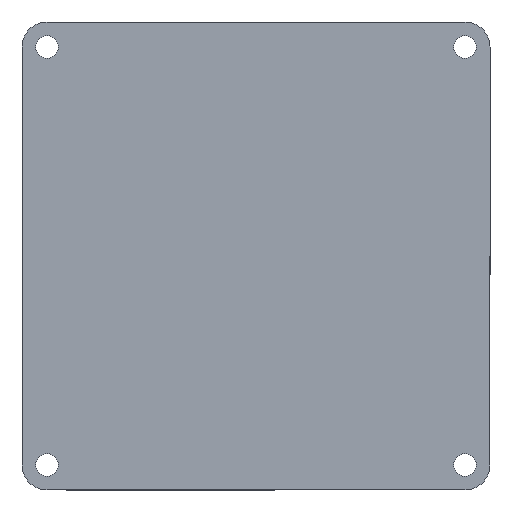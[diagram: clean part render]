
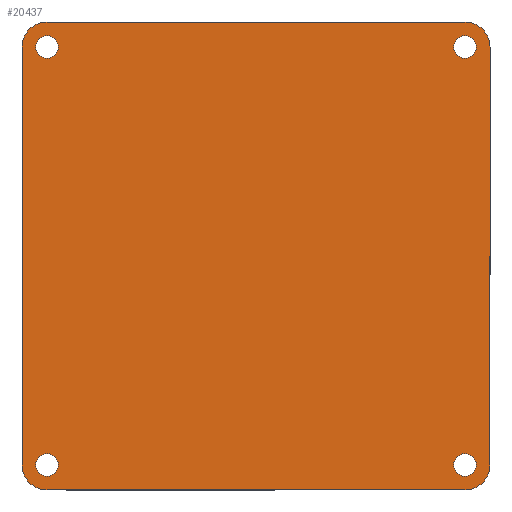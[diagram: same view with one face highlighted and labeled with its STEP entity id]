
A CAD part, front view. The second image highlights one B-rep face of the part: STEP entity #20437.
In plain terms, the highlighted planar face has unit normal (0, -1, 0).
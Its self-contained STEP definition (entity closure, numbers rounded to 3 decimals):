
#219 = CARTESIAN_POINT ( 'NONE',  ( -35., 0., -31.25 ) ) ;
#227 = DIRECTION ( 'NONE',  ( 0., 0., 1. ) ) ;
#463 = CARTESIAN_POINT ( 'NONE',  ( -31.25, 0., 31.25 ) ) ;
#664 = ORIENTED_EDGE ( 'NONE', *, *, #13241, .T. ) ;
#1023 = EDGE_CURVE ( 'NONE', #22109, #22109, #20953, .T. ) ;
#1061 = CIRCLE ( 'NONE', #20741, 1.7 ) ;
#1661 = PLANE ( 'NONE',  #5670 ) ;
#1959 = DIRECTION ( 'NONE',  ( 0., -1., 0. ) ) ;
#2437 = CARTESIAN_POINT ( 'NONE',  ( -31.25, 0., -31.25 ) ) ;
#2697 = FACE_BOUND ( 'NONE', #16604, .T. ) ;
#2740 = FACE_BOUND ( 'NONE', #9182, .T. ) ;
#2944 = CIRCLE ( 'NONE', #20481, 1.7 ) ;
#3190 = VECTOR ( 'NONE', #4754, 1000. ) ;
#3239 = DIRECTION ( 'NONE',  ( 0., 0., 1. ) ) ;
#3329 = CARTESIAN_POINT ( 'NONE',  ( -31.25, 0., -29.55 ) ) ;
#3375 = EDGE_CURVE ( 'NONE', #3922, #10347, #20185, .T. ) ;
#3419 = DIRECTION ( 'NONE',  ( 0., -1., 0. ) ) ;
#3485 = ORIENTED_EDGE ( 'NONE', *, *, #4124, .T. ) ;
#3922 = VERTEX_POINT ( 'NONE', #13198 ) ;
#4124 = EDGE_CURVE ( 'NONE', #15135, #10587, #11899, .T. ) ;
#4342 = LINE ( 'NONE', #9231, #16850 ) ;
#4479 = CARTESIAN_POINT ( 'NONE',  ( 35., 0., 31.25 ) ) ;
#4643 = AXIS2_PLACEMENT_3D ( 'NONE', #2437, #14881, #5417 ) ;
#4754 = DIRECTION ( 'NONE',  ( 0., 0., -1. ) ) ;
#4919 = DIRECTION ( 'NONE',  ( 0., -1., 0. ) ) ;
#4939 = CARTESIAN_POINT ( 'NONE',  ( 31.25, 0., -29.55 ) ) ;
#5105 = DIRECTION ( 'NONE',  ( 0., -1., 0. ) ) ;
#5215 = EDGE_CURVE ( 'NONE', #12855, #12855, #6784, .T. ) ;
#5325 = EDGE_LOOP ( 'NONE', ( #22223 ) ) ;
#5412 = CARTESIAN_POINT ( 'NONE',  ( 35., 0., -31.25 ) ) ;
#5417 = DIRECTION ( 'NONE',  ( 0., 0., 1. ) ) ;
#5513 = EDGE_LOOP ( 'NONE', ( #12532 ) ) ;
#5635 = CIRCLE ( 'NONE', #4643, 3.75 ) ;
#5670 = AXIS2_PLACEMENT_3D ( 'NONE', #20363, #21965, #7013 ) ;
#6146 = VECTOR ( 'NONE', #11297, 1000. ) ;
#6784 = CIRCLE ( 'NONE', #11340, 1.7 ) ;
#6877 = DIRECTION ( 'NONE',  ( 0., 0., 1. ) ) ;
#7013 = DIRECTION ( 'NONE',  ( 0., 0., 1. ) ) ;
#7106 = DIRECTION ( 'NONE',  ( 0., 0., 1. ) ) ;
#7221 = ORIENTED_EDGE ( 'NONE', *, *, #22051, .F. ) ;
#7452 = AXIS2_PLACEMENT_3D ( 'NONE', #17288, #4919, #6877 ) ;
#7488 = ORIENTED_EDGE ( 'NONE', *, *, #12797, .T. ) ;
#7531 = ORIENTED_EDGE ( 'NONE', *, *, #18236, .F. ) ;
#7572 = CARTESIAN_POINT ( 'NONE',  ( -35., 0., -35. ) ) ;
#7726 = DIRECTION ( 'NONE',  ( 0., -1., 0. ) ) ;
#7753 = DIRECTION ( 'NONE',  ( -1., 0., 0. ) ) ;
#8089 = CARTESIAN_POINT ( 'NONE',  ( -31.25, 0., 32.95 ) ) ;
#8134 = VERTEX_POINT ( 'NONE', #20304 ) ;
#8249 = CARTESIAN_POINT ( 'NONE',  ( 31.25, 0., 32.95 ) ) ;
#8530 = CARTESIAN_POINT ( 'NONE',  ( -31.25, 0., -31.25 ) ) ;
#8890 = CARTESIAN_POINT ( 'NONE',  ( -31.25, 0., -35. ) ) ;
#9182 = EDGE_LOOP ( 'NONE', ( #21942 ) ) ;
#9231 = CARTESIAN_POINT ( 'NONE',  ( -35., 0., 35. ) ) ;
#9347 = CIRCLE ( 'NONE', #19830, 3.75 ) ;
#9797 = VERTEX_POINT ( 'NONE', #8089 ) ;
#9818 = FACE_OUTER_BOUND ( 'NONE', #17402, .T. ) ;
#10117 = VECTOR ( 'NONE', #7753, 1000. ) ;
#10178 = EDGE_CURVE ( 'NONE', #12738, #17940, #22677, .T. ) ;
#10192 = CARTESIAN_POINT ( 'NONE',  ( -31.25, 0., 31.25 ) ) ;
#10262 = LINE ( 'NONE', #13541, #3190 ) ;
#10347 = VERTEX_POINT ( 'NONE', #5412 ) ;
#10587 = VERTEX_POINT ( 'NONE', #19621 ) ;
#11297 = DIRECTION ( 'NONE',  ( 0., 0., 1. ) ) ;
#11340 = AXIS2_PLACEMENT_3D ( 'NONE', #13732, #13572, #13695 ) ;
#11344 = VERTEX_POINT ( 'NONE', #8249 ) ;
#11409 = AXIS2_PLACEMENT_3D ( 'NONE', #8530, #17300, #15498 ) ;
#11899 = CIRCLE ( 'NONE', #7452, 3.75 ) ;
#12403 = CARTESIAN_POINT ( 'NONE',  ( 31.25, 0., -31.25 ) ) ;
#12532 = ORIENTED_EDGE ( 'NONE', *, *, #5215, .F. ) ;
#12603 = CARTESIAN_POINT ( 'NONE',  ( -35., 0., 31.25 ) ) ;
#12690 = ORIENTED_EDGE ( 'NONE', *, *, #10178, .F. ) ;
#12738 = VERTEX_POINT ( 'NONE', #219 ) ;
#12797 = EDGE_CURVE ( 'NONE', #12738, #19365, #5635, .T. ) ;
#12855 = VERTEX_POINT ( 'NONE', #4939 ) ;
#13039 = FACE_BOUND ( 'NONE', #5513, .T. ) ;
#13198 = CARTESIAN_POINT ( 'NONE',  ( 31.25, 0., -35. ) ) ;
#13241 = EDGE_CURVE ( 'NONE', #8134, #17940, #9347, .T. ) ;
#13541 = CARTESIAN_POINT ( 'NONE',  ( 35., 0., -35. ) ) ;
#13572 = DIRECTION ( 'NONE',  ( 0., -1., 0. ) ) ;
#13695 = DIRECTION ( 'NONE',  ( 0., 0., 1. ) ) ;
#13718 = ORIENTED_EDGE ( 'NONE', *, *, #20356, .F. ) ;
#13732 = CARTESIAN_POINT ( 'NONE',  ( 31.25, 0., -31.25 ) ) ;
#13893 = ORIENTED_EDGE ( 'NONE', *, *, #17137, .F. ) ;
#14049 = DIRECTION ( 'NONE',  ( 0., 0., 1. ) ) ;
#14881 = DIRECTION ( 'NONE',  ( 0., -1., 0. ) ) ;
#14990 = EDGE_CURVE ( 'NONE', #9797, #9797, #1061, .T. ) ;
#15135 = VERTEX_POINT ( 'NONE', #4479 ) ;
#15498 = DIRECTION ( 'NONE',  ( 0., 0., 1. ) ) ;
#15666 = CARTESIAN_POINT ( 'NONE',  ( 31.25, 0., 31.25 ) ) ;
#15843 = AXIS2_PLACEMENT_3D ( 'NONE', #12403, #3419, #14049 ) ;
#16413 = ORIENTED_EDGE ( 'NONE', *, *, #3375, .T. ) ;
#16604 = EDGE_LOOP ( 'NONE', ( #7221 ) ) ;
#16850 = VECTOR ( 'NONE', #18887, 1000. ) ;
#17137 = EDGE_CURVE ( 'NONE', #3922, #19365, #22615, .T. ) ;
#17288 = CARTESIAN_POINT ( 'NONE',  ( 31.25, 0., 31.25 ) ) ;
#17300 = DIRECTION ( 'NONE',  ( 0., -1., 0. ) ) ;
#17402 = EDGE_LOOP ( 'NONE', ( #13718, #664, #12690, #7488, #13893, #16413, #7531, #3485 ) ) ;
#17940 = VERTEX_POINT ( 'NONE', #12603 ) ;
#18236 = EDGE_CURVE ( 'NONE', #15135, #10347, #10262, .T. ) ;
#18887 = DIRECTION ( 'NONE',  ( 1., 0., 0. ) ) ;
#19365 = VERTEX_POINT ( 'NONE', #8890 ) ;
#19621 = CARTESIAN_POINT ( 'NONE',  ( 31.25, 0., 35. ) ) ;
#19830 = AXIS2_PLACEMENT_3D ( 'NONE', #463, #7726, #227 ) ;
#20185 = CIRCLE ( 'NONE', #15843, 3.75 ) ;
#20304 = CARTESIAN_POINT ( 'NONE',  ( -31.25, 0., 35. ) ) ;
#20356 = EDGE_CURVE ( 'NONE', #8134, #10587, #4342, .T. ) ;
#20363 = CARTESIAN_POINT ( 'NONE',  ( -35., 0., 35. ) ) ;
#20399 = CARTESIAN_POINT ( 'NONE',  ( -35., 0., -35. ) ) ;
#20437 = ADVANCED_FACE ( 'NONE', ( #9818, #13039, #21938, #2740, #2697 ), #1661, .F. ) ;
#20481 = AXIS2_PLACEMENT_3D ( 'NONE', #15666, #5105, #3239 ) ;
#20741 = AXIS2_PLACEMENT_3D ( 'NONE', #10192, #1959, #7106 ) ;
#20953 = CIRCLE ( 'NONE', #11409, 1.7 ) ;
#21938 = FACE_BOUND ( 'NONE', #5325, .T. ) ;
#21942 = ORIENTED_EDGE ( 'NONE', *, *, #14990, .F. ) ;
#21965 = DIRECTION ( 'NONE',  ( 0., 1., 0. ) ) ;
#22051 = EDGE_CURVE ( 'NONE', #11344, #11344, #2944, .T. ) ;
#22109 = VERTEX_POINT ( 'NONE', #3329 ) ;
#22223 = ORIENTED_EDGE ( 'NONE', *, *, #1023, .F. ) ;
#22615 = LINE ( 'NONE', #7572, #10117 ) ;
#22677 = LINE ( 'NONE', #20399, #6146 ) ;
